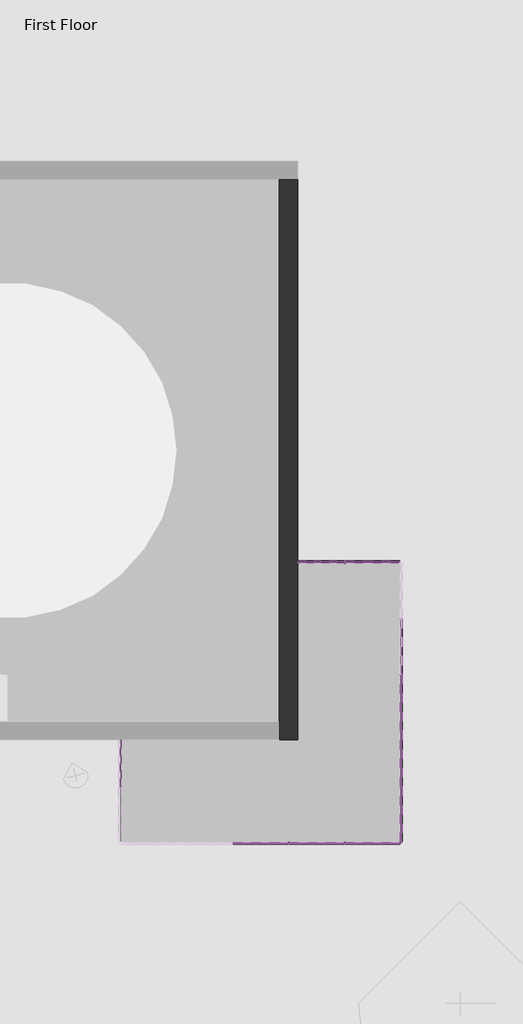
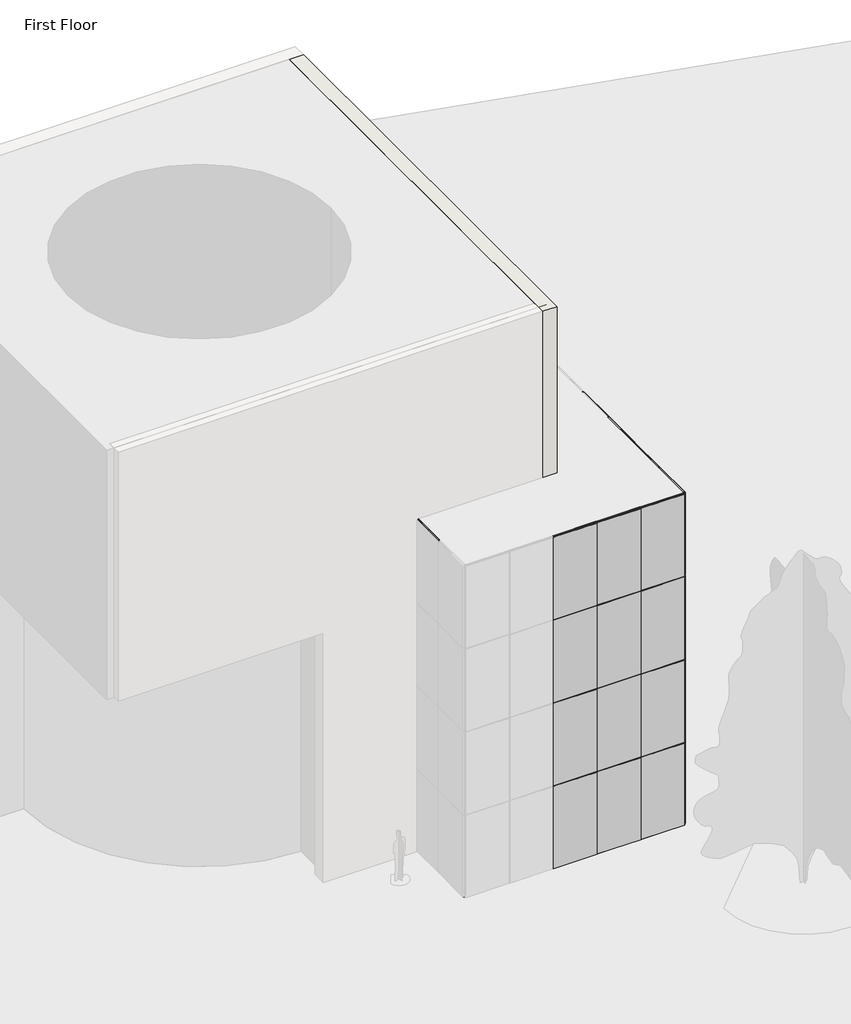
# One storey, part 2 of 4: 92 members, 36 plates, 1 wall.
"""IFC4 building model written with IfcOpenShell, lengths in millimetres."""

from ifc_helpers import new_model, si_unit, origin, place, context, project, spatial, faceted_brep, transform, mapped, element, save
from components import member_40ce1a5c, member_5e617a80, member_0d8d9af5, member_74941792, member_cbdb9076, member_7e523723, member_9fd3d903, member_6604d1e0, member_e0356dda, member_be0b070d, system_panel_glazed_9b7d687a, system_panel_glazed_3ccd4ad1, system_panel_glazed_9a901b4a, system_panel_glazed_ee91e337, system_panel_glazed_2d5e1d3d, system_panel_glazed_37964ea6

model = new_model("IFC4")

# Units and contexts
model_context = context("Model", 3, world=origin())
ifc_project = project(units=[si_unit("LENGTHUNIT", "METRE", prefix="MILLI")], contexts=[model_context])

# Site, building, storey
site = spatial("IfcSite", under=ifc_project)
building = spatial("IfcBuilding", under=site)
storey = spatial("IfcBuildingStorey", under=building, Name="First Floor", Elevation=0.0)

# Members
placement = place(None, origin())
member_shape = member_40ce1a5c(model_context)
element("IfcMember", 1, ObjectType="Rectangular Mullion : 1\" Square", at=placement, inside=storey, context=model_context, shape_type="MappedRepresentation", body=[
    mapped(member_shape, transform((5418.7693843, -3733.9860776, 3048.0), x_axis=(0.0, 0.0, 1.0), y_axis=(0.0, 1.0, 0.0), z_axis=(-1.0, 0.0, 0.0))),
])
element("IfcMember", 2, ObjectType="Rectangular Mullion : 1\" Square", at=placement, inside=storey, context=model_context, shape_type="MappedRepresentation", body=[
    mapped(member_shape, transform((5418.7693843, -3733.9860776, 6096.0), x_axis=(0.0, 0.0, 1.0), y_axis=(0.0, 1.0, 0.0), z_axis=(-1.0, 0.0, 0.0))),
])
element("IfcMember", 3, ObjectType="Rectangular Mullion : 1\" Square", at=placement, inside=storey, context=model_context, shape_type="MappedRepresentation", body=[
    mapped(member_shape, transform((5418.7693843, -3733.9860776, 9144.0), x_axis=(0.0, 0.0, 1.0), y_axis=(0.0, 1.0, 0.0), z_axis=(-1.0, 0.0, 0.0))),
])
member_2_shape = member_5e617a80(model_context)
element("IfcMember", 4, ObjectType="Rectangular Mullion : 1\" Square", at=placement, inside=storey, context=model_context, shape_type="MappedRepresentation", body=[
    mapped(member_2_shape, transform((8171.4943843, -11353.9860776, 3048.0), x_axis=(0.0, 0.0, 1.0), y_axis=(0.0, -1.0, 0.0), z_axis=(1.0, 0.0, 0.0))),
])
element("IfcMember", 5, ObjectType="Rectangular Mullion : 1\" Square", at=placement, inside=storey, context=model_context, shape_type="MappedRepresentation", body=[
    mapped(member_2_shape, transform((8171.4943843, -11353.9860776, 6096.0), x_axis=(0.0, 0.0, 1.0), y_axis=(0.0, -1.0, 0.0), z_axis=(1.0, 0.0, 0.0))),
])
element("IfcMember", 6, ObjectType="Rectangular Mullion : 1\" Square", at=placement, inside=storey, context=model_context, shape_type="MappedRepresentation", body=[
    mapped(member_2_shape, transform((8171.4943843, -11353.9860776, 9144.0), x_axis=(0.0, 0.0, 1.0), y_axis=(0.0, -1.0, 0.0), z_axis=(1.0, 0.0, 0.0))),
])
element("IfcMember", 7, ObjectType="Rectangular Mullion : 1\" Square", at=placement, inside=storey, context=model_context, shape_type="MappedRepresentation", body=[
    mapped(member_2_shape, transform((8196.8943843, -9842.6860776, 3048.0), x_axis=(0.0, 0.0, 1.0), y_axis=(1.0, 0.0, 0.0), z_axis=(0.0, 1.0, 0.0))),
])
element("IfcMember", 8, ObjectType="Rectangular Mullion : 1\" Square", at=placement, inside=storey, context=model_context, shape_type="MappedRepresentation", body=[
    mapped(member_2_shape, transform((8196.8943843, -9842.6860776, 6096.0), x_axis=(0.0, 0.0, 1.0), y_axis=(1.0, 0.0, 0.0), z_axis=(0.0, 1.0, 0.0))),
])
element("IfcMember", 9, ObjectType="Rectangular Mullion : 1\" Square", at=placement, inside=storey, context=model_context, shape_type="MappedRepresentation", body=[
    mapped(member_2_shape, transform((8196.8943843, -9842.6860776, 9144.0), x_axis=(0.0, 0.0, 1.0), y_axis=(1.0, 0.0, 0.0), z_axis=(0.0, 1.0, 0.0))),
])
element("IfcMember", 10, ObjectType="Rectangular Mullion : 1\" Square", at=placement, inside=storey, context=model_context, shape_type="MappedRepresentation", body=[
    mapped(member_2_shape, transform((6685.5943843, -3733.9860776, 3048.0), x_axis=(0.0, 0.0, 1.0), y_axis=(0.0, 1.0, 0.0), z_axis=(-1.0, 0.0, 0.0))),
])
element("IfcMember", 11, ObjectType="Rectangular Mullion : 1\" Square", at=placement, inside=storey, context=model_context, shape_type="MappedRepresentation", body=[
    mapped(member_2_shape, transform((6685.5943843, -3733.9860776, 6096.0), x_axis=(0.0, 0.0, 1.0), y_axis=(0.0, 1.0, 0.0), z_axis=(-1.0, 0.0, 0.0))),
])
element("IfcMember", 12, ObjectType="Rectangular Mullion : 1\" Square", at=placement, inside=storey, context=model_context, shape_type="MappedRepresentation", body=[
    mapped(member_2_shape, transform((6685.5943843, -3733.9860776, 9144.0), x_axis=(0.0, 0.0, 1.0), y_axis=(0.0, 1.0, 0.0), z_axis=(-1.0, 0.0, 0.0))),
])
member_3_shape = member_0d8d9af5(model_context)
element("IfcMember", 13, ObjectType="Rectangular Mullion : 1\" Square", at=placement, inside=storey, context=model_context, shape_type="MappedRepresentation", body=[
    mapped(member_3_shape, transform((6660.1943843, -3733.9860776, 0.0), x_axis=(0.0, 0.0, -1.0), y_axis=(0.0, 1.0, 0.0), z_axis=(1.0, 0.0, 0.0))),
])
member_4_shape = member_74941792(model_context)
element("IfcMember", 14, ObjectType="Rectangular Mullion : 1\" Square", at=placement, inside=storey, context=model_context, shape_type="MappedRepresentation", body=[
    mapped(member_4_shape, transform((8171.4943843, -11353.9860776, 12192.0), x_axis=(0.0, 0.0, 1.0), y_axis=(0.0, -1.0, 0.0), z_axis=(1.0, 0.0, 0.0))),
])
element("IfcMember", 15, ObjectType="Rectangular Mullion : 1\" Square", at=placement, inside=storey, context=model_context, shape_type="MappedRepresentation", body=[
    mapped(member_4_shape, transform((8196.8943843, -9842.6860776, 12192.0), x_axis=(0.0, 0.0, 1.0), y_axis=(1.0, 0.0, 0.0), z_axis=(0.0, 1.0, 0.0))),
])
element("IfcMember", 16, ObjectType="Rectangular Mullion : 1\" Square", at=placement, inside=storey, context=model_context, shape_type="MappedRepresentation", body=[
    mapped(member_4_shape, transform((6685.5943843, -3733.9860776, 12192.0), x_axis=(0.0, 0.0, 1.0), y_axis=(0.0, 1.0, 0.0), z_axis=(-1.0, 0.0, 0.0))),
])
member_5_shape = member_cbdb9076(model_context)
element("IfcMember", 17, ObjectType="Rectangular Mullion : 1\" Square", at=placement, inside=storey, context=model_context, shape_type="MappedRepresentation", body=[
    mapped(member_5_shape, transform((576.8943843, -9826.8110776, 3048.0), x_axis=(0.0, -1.0, 0.0), y_axis=(-1.0, 0.0, 0.0), z_axis=(0.0, 0.0, -1.0))),
])
element("IfcMember", 18, ObjectType="Rectangular Mullion : 1\" Square", at=placement, inside=storey, context=model_context, shape_type="MappedRepresentation", body=[
    mapped(member_5_shape, transform((576.8943843, -9826.8110776, 6096.0), x_axis=(0.0, -1.0, 0.0), y_axis=(-1.0, 0.0, 0.0), z_axis=(0.0, 0.0, -1.0))),
])
element("IfcMember", 19, ObjectType="Rectangular Mullion : 1\" Square", at=placement, inside=storey, context=model_context, shape_type="MappedRepresentation", body=[
    mapped(member_5_shape, transform((5148.8943843, -11353.9860776, 3048.0), x_axis=(1.0, 0.0, 0.0), y_axis=(0.0, -1.0, 0.0), z_axis=(0.0, 0.0, -1.0))),
])
element("IfcMember", 20, ObjectType="Rectangular Mullion : 1\" Square", at=placement, inside=storey, context=model_context, shape_type="MappedRepresentation", body=[
    mapped(member_5_shape, transform((5148.8943843, -11353.9860776, 6096.0), x_axis=(1.0, 0.0, 0.0), y_axis=(0.0, -1.0, 0.0), z_axis=(0.0, 0.0, -1.0))),
])
element("IfcMember", 21, ObjectType="Rectangular Mullion : 1\" Square", at=placement, inside=storey, context=model_context, shape_type="MappedRepresentation", body=[
    mapped(member_5_shape, transform((6672.8943843, -11353.9860776, 3048.0), x_axis=(1.0, 0.0, 0.0), y_axis=(0.0, -1.0, 0.0), z_axis=(0.0, 0.0, -1.0))),
])
element("IfcMember", 22, ObjectType="Rectangular Mullion : 1\" Square", at=placement, inside=storey, context=model_context, shape_type="MappedRepresentation", body=[
    mapped(member_5_shape, transform((6672.8943843, -11353.9860776, 6096.0), x_axis=(1.0, 0.0, 0.0), y_axis=(0.0, -1.0, 0.0), z_axis=(0.0, 0.0, -1.0))),
])
element("IfcMember", 23, ObjectType="Rectangular Mullion : 1\" Square", at=placement, inside=storey, context=model_context, shape_type="MappedRepresentation", body=[
    mapped(member_5_shape, transform((8196.8943843, -8305.9860776, 6096.0), x_axis=(0.0, 1.0, 0.0), y_axis=(1.0, 0.0, 0.0), z_axis=(0.0, 0.0, -1.0))),
])
element("IfcMember", 24, ObjectType="Rectangular Mullion : 1\" Square", at=placement, inside=storey, context=model_context, shape_type="MappedRepresentation", body=[
    mapped(member_5_shape, transform((8196.8943843, -6781.9860776, 3048.0), x_axis=(0.0, 1.0, 0.0), y_axis=(1.0, 0.0, 0.0), z_axis=(0.0, 0.0, -1.0))),
])
element("IfcMember", 25, ObjectType="Rectangular Mullion : 1\" Square", at=placement, inside=storey, context=model_context, shape_type="MappedRepresentation", body=[
    mapped(member_5_shape, transform((8196.8943843, -6781.9860776, 6096.0), x_axis=(0.0, 1.0, 0.0), y_axis=(1.0, 0.0, 0.0), z_axis=(0.0, 0.0, -1.0))),
])
element("IfcMember", 26, ObjectType="Rectangular Mullion : 1\" Square", at=placement, inside=storey, context=model_context, shape_type="MappedRepresentation", body=[
    mapped(member_5_shape, transform((8196.8943843, -5257.9860776, 3048.0), x_axis=(0.0, 1.0, 0.0), y_axis=(1.0, 0.0, 0.0), z_axis=(0.0, 0.0, -1.0))),
])
element("IfcMember", 27, ObjectType="Rectangular Mullion : 1\" Square", at=placement, inside=storey, context=model_context, shape_type="MappedRepresentation", body=[
    mapped(member_5_shape, transform((8196.8943843, -5257.9860776, 6096.0), x_axis=(0.0, 1.0, 0.0), y_axis=(1.0, 0.0, 0.0), z_axis=(0.0, 0.0, -1.0))),
])
element("IfcMember", 28, ObjectType="Rectangular Mullion : 1\" Square", at=placement, inside=storey, context=model_context, shape_type="MappedRepresentation", body=[
    mapped(member_5_shape, transform((8196.8943843, -9829.9860776, 3048.0), x_axis=(0.0, 1.0, 0.0), y_axis=(1.0, 0.0, 0.0), z_axis=(0.0, 0.0, -1.0))),
])
element("IfcMember", 29, ObjectType="Rectangular Mullion : 1\" Square", at=placement, inside=storey, context=model_context, shape_type="MappedRepresentation", body=[
    mapped(member_5_shape, transform((8196.8943843, -9829.9860776, 6096.0), x_axis=(0.0, 1.0, 0.0), y_axis=(1.0, 0.0, 0.0), z_axis=(0.0, 0.0, -1.0))),
])
element("IfcMember", 30, ObjectType="Rectangular Mullion : 1\" Square", at=placement, inside=storey, context=model_context, shape_type="MappedRepresentation", body=[
    mapped(member_5_shape, transform((8196.8943843, -8305.9860776, 3048.0), x_axis=(0.0, 1.0, 0.0), y_axis=(1.0, 0.0, 0.0), z_axis=(0.0, 0.0, -1.0))),
])
element("IfcMember", 31, ObjectType="Rectangular Mullion : 1\" Square", at=placement, inside=storey, context=model_context, shape_type="MappedRepresentation", body=[
    mapped(member_5_shape, transform((6672.8943843, -3733.9860776, 3048.0), x_axis=(-1.0, 0.0, 0.0), y_axis=(0.0, 1.0, 0.0), z_axis=(0.0, 0.0, -1.0))),
])
element("IfcMember", 32, ObjectType="Rectangular Mullion : 1\" Square", at=placement, inside=storey, context=model_context, shape_type="MappedRepresentation", body=[
    mapped(member_5_shape, transform((6672.8943843, -3733.9860776, 6096.0), x_axis=(-1.0, 0.0, 0.0), y_axis=(0.0, 1.0, 0.0), z_axis=(0.0, 0.0, -1.0))),
])
element("IfcMember", 33, ObjectType="Rectangular Mullion : 1\" Square", at=placement, inside=storey, context=model_context, shape_type="MappedRepresentation", body=[
    mapped(member_5_shape, transform((576.8943843, -9826.8110776, 9144.0), x_axis=(0.0, -1.0, 0.0), y_axis=(-1.0, 0.0, 0.0), z_axis=(0.0, 0.0, -1.0))),
])
element("IfcMember", 34, ObjectType="Rectangular Mullion : 1\" Square", at=placement, inside=storey, context=model_context, shape_type="MappedRepresentation", body=[
    mapped(member_5_shape, transform((5148.8943843, -11353.9860776, 9144.0), x_axis=(1.0, 0.0, 0.0), y_axis=(0.0, -1.0, 0.0), z_axis=(0.0, 0.0, -1.0))),
])
element("IfcMember", 35, ObjectType="Rectangular Mullion : 1\" Square", at=placement, inside=storey, context=model_context, shape_type="MappedRepresentation", body=[
    mapped(member_5_shape, transform((6672.8943843, -11353.9860776, 9144.0), x_axis=(1.0, 0.0, 0.0), y_axis=(0.0, -1.0, 0.0), z_axis=(0.0, 0.0, -1.0))),
])
element("IfcMember", 36, ObjectType="Rectangular Mullion : 1\" Square", at=placement, inside=storey, context=model_context, shape_type="MappedRepresentation", body=[
    mapped(member_5_shape, transform((8196.8943843, -8305.9860776, 9144.0), x_axis=(0.0, 1.0, 0.0), y_axis=(1.0, 0.0, 0.0), z_axis=(0.0, 0.0, -1.0))),
])
element("IfcMember", 37, ObjectType="Rectangular Mullion : 1\" Square", at=placement, inside=storey, context=model_context, shape_type="MappedRepresentation", body=[
    mapped(member_5_shape, transform((8196.8943843, -6781.9860776, 9144.0), x_axis=(0.0, 1.0, 0.0), y_axis=(1.0, 0.0, 0.0), z_axis=(0.0, 0.0, -1.0))),
])
element("IfcMember", 38, ObjectType="Rectangular Mullion : 1\" Square", at=placement, inside=storey, context=model_context, shape_type="MappedRepresentation", body=[
    mapped(member_5_shape, transform((8196.8943843, -5257.9860776, 9144.0), x_axis=(0.0, 1.0, 0.0), y_axis=(1.0, 0.0, 0.0), z_axis=(0.0, 0.0, -1.0))),
])
element("IfcMember", 39, ObjectType="Rectangular Mullion : 1\" Square", at=placement, inside=storey, context=model_context, shape_type="MappedRepresentation", body=[
    mapped(member_5_shape, transform((8196.8943843, -9829.9860776, 9144.0), x_axis=(0.0, 1.0, 0.0), y_axis=(1.0, 0.0, 0.0), z_axis=(0.0, 0.0, -1.0))),
])
element("IfcMember", 40, ObjectType="Rectangular Mullion : 1\" Square", at=placement, inside=storey, context=model_context, shape_type="MappedRepresentation", body=[
    mapped(member_5_shape, transform((6672.8943843, -3733.9860776, 9144.0), x_axis=(-1.0, 0.0, 0.0), y_axis=(0.0, 1.0, 0.0), z_axis=(0.0, 0.0, -1.0))),
])
element("IfcMember", 41, ObjectType="Rectangular Mullion : 1\" Square", at=placement, inside=storey, context=model_context, shape_type="MappedRepresentation", body=[
    mapped(member_5_shape, transform((576.8943843, -9826.8110776, 0.0), x_axis=(0.0, -1.0, 0.0), y_axis=(-1.0, 0.0, 0.0), z_axis=(0.0, 0.0, -1.0))),
])
element("IfcMember", 42, ObjectType="Rectangular Mullion : 1\" Square", at=placement, inside=storey, context=model_context, shape_type="MappedRepresentation", body=[
    mapped(member_5_shape, transform((6672.8943843, -11353.9860776, 0.0), x_axis=(1.0, 0.0, 0.0), y_axis=(0.0, -1.0, 0.0), z_axis=(0.0, 0.0, -1.0))),
])
element("IfcMember", 43, ObjectType="Rectangular Mullion : 1\" Square", at=placement, inside=storey, context=model_context, shape_type="MappedRepresentation", body=[
    mapped(member_5_shape, transform((5148.8943843, -11353.9860776, 0.0), x_axis=(1.0, 0.0, 0.0), y_axis=(0.0, -1.0, 0.0), z_axis=(0.0, 0.0, -1.0))),
])
element("IfcMember", 44, ObjectType="Rectangular Mullion : 1\" Square", at=placement, inside=storey, context=model_context, shape_type="MappedRepresentation", body=[
    mapped(member_5_shape, transform((8196.8943843, -9829.9860776, 0.0), x_axis=(0.0, 1.0, 0.0), y_axis=(1.0, 0.0, 0.0), z_axis=(0.0, 0.0, -1.0))),
])
element("IfcMember", 45, ObjectType="Rectangular Mullion : 1\" Square", at=placement, inside=storey, context=model_context, shape_type="MappedRepresentation", body=[
    mapped(member_5_shape, transform((8196.8943843, -8305.9860776, 0.0), x_axis=(0.0, 1.0, 0.0), y_axis=(1.0, 0.0, 0.0), z_axis=(0.0, 0.0, -1.0))),
])
element("IfcMember", 46, ObjectType="Rectangular Mullion : 1\" Square", at=placement, inside=storey, context=model_context, shape_type="MappedRepresentation", body=[
    mapped(member_5_shape, transform((8196.8943843, -6781.9860776, 0.0), x_axis=(0.0, 1.0, 0.0), y_axis=(1.0, 0.0, 0.0), z_axis=(0.0, 0.0, -1.0))),
])
element("IfcMember", 47, ObjectType="Rectangular Mullion : 1\" Square", at=placement, inside=storey, context=model_context, shape_type="MappedRepresentation", body=[
    mapped(member_5_shape, transform((6672.8943843, -3733.9860776, 0.0), x_axis=(-1.0, 0.0, 0.0), y_axis=(0.0, 1.0, 0.0), z_axis=(0.0, 0.0, -1.0))),
])
element("IfcMember", 48, ObjectType="Rectangular Mullion : 1\" Square", at=placement, inside=storey, context=model_context, shape_type="MappedRepresentation", body=[
    mapped(member_4_shape, transform((6685.5943843, -11353.9860776, 0.0), x_axis=(0.0, 0.0, -1.0), y_axis=(0.0, -1.0, 0.0), z_axis=(-1.0, 0.0, 0.0))),
])
element("IfcMember", 49, ObjectType="Rectangular Mullion : 1\" Square", at=placement, inside=storey, context=model_context, shape_type="MappedRepresentation", body=[
    mapped(member_4_shape, transform((8196.8943843, -11328.5860776, 0.0), x_axis=(0.0, 0.0, -1.0), y_axis=(1.0, 0.0, 0.0), z_axis=(0.0, -1.0, 0.0))),
])
element("IfcMember", 50, ObjectType="Rectangular Mullion : 1\" Square", at=placement, inside=storey, context=model_context, shape_type="MappedRepresentation", body=[
    mapped(member_3_shape, transform((5418.7693843, -3733.9860776, 12192.0), x_axis=(0.0, 0.0, 1.0), y_axis=(0.0, 1.0, 0.0), z_axis=(-1.0, 0.0, 0.0))),
])
member_6_shape = member_7e523723(model_context)
element("IfcMember", 51, ObjectType="Rectangular Mullion : 1\" Square", at=placement, inside=storey, context=model_context, shape_type="MappedRepresentation", body=[
    mapped(member_6_shape, transform((576.8943843, -8550.4610776, 12192.0), x_axis=(0.0, 1.0, 0.0), y_axis=(-1.0, 0.0, 0.0), z_axis=(0.0, 0.0, 1.0))),
])
element("IfcMember", 52, ObjectType="Rectangular Mullion : 1\" Square", at=placement, inside=storey, context=model_context, shape_type="MappedRepresentation", body=[
    mapped(member_6_shape, transform((8196.8943843, -11353.9860776, 12192.0), x_axis=(0.0, -1.0, 0.0), y_axis=(1.0, 0.0, 0.0), z_axis=(0.0, 0.0, 1.0))),
])
element("IfcMember", 53, ObjectType="Rectangular Mullion : 1\" Square", at=placement, inside=storey, context=model_context, shape_type="MappedRepresentation", body=[
    mapped(member_6_shape, transform((8196.8943843, -11353.9860776, 3048.0), x_axis=(1.0, 0.0, 0.0), y_axis=(0.0, -1.0, 0.0), z_axis=(0.0, 0.0, -1.0))),
])
element("IfcMember", 54, ObjectType="Rectangular Mullion : 1\" Square", at=placement, inside=storey, context=model_context, shape_type="MappedRepresentation", body=[
    mapped(member_6_shape, transform((8196.8943843, -11353.9860776, 6096.0), x_axis=(1.0, 0.0, 0.0), y_axis=(0.0, -1.0, 0.0), z_axis=(0.0, 0.0, -1.0))),
])
element("IfcMember", 55, ObjectType="Rectangular Mullion : 1\" Square", at=placement, inside=storey, context=model_context, shape_type="MappedRepresentation", body=[
    mapped(member_6_shape, transform((5393.3693843, -3733.9860776, 3048.0), x_axis=(-1.0, 0.0, 0.0), y_axis=(0.0, 1.0, 0.0), z_axis=(0.0, 0.0, -1.0))),
])
element("IfcMember", 56, ObjectType="Rectangular Mullion : 1\" Square", at=placement, inside=storey, context=model_context, shape_type="MappedRepresentation", body=[
    mapped(member_6_shape, transform((5393.3693843, -3733.9860776, 6096.0), x_axis=(-1.0, 0.0, 0.0), y_axis=(0.0, 1.0, 0.0), z_axis=(0.0, 0.0, -1.0))),
])
element("IfcMember", 57, ObjectType="Rectangular Mullion : 1\" Square", at=placement, inside=storey, context=model_context, shape_type="MappedRepresentation", body=[
    mapped(member_6_shape, transform((8196.8943843, -11353.9860776, 9144.0), x_axis=(1.0, 0.0, 0.0), y_axis=(0.0, -1.0, 0.0), z_axis=(0.0, 0.0, -1.0))),
])
element("IfcMember", 58, ObjectType="Rectangular Mullion : 1\" Square", at=placement, inside=storey, context=model_context, shape_type="MappedRepresentation", body=[
    mapped(member_6_shape, transform((5393.3693843, -3733.9860776, 9144.0), x_axis=(-1.0, 0.0, 0.0), y_axis=(0.0, 1.0, 0.0), z_axis=(0.0, 0.0, -1.0))),
])
element("IfcMember", 59, ObjectType="Rectangular Mullion : 1\" Square", at=placement, inside=storey, context=model_context, shape_type="MappedRepresentation", body=[
    mapped(member_6_shape, transform((576.8943843, -8550.4610776, 3048.0), x_axis=(0.0, 1.0, 0.0), y_axis=(-1.0, 0.0, 0.0), z_axis=(0.0, 0.0, 1.0))),
])
element("IfcMember", 60, ObjectType="Rectangular Mullion : 1\" Square", at=placement, inside=storey, context=model_context, shape_type="MappedRepresentation", body=[
    mapped(member_6_shape, transform((8196.8943843, -11353.9860776, 3048.0), x_axis=(0.0, -1.0, 0.0), y_axis=(1.0, 0.0, 0.0), z_axis=(0.0, 0.0, 1.0))),
])
element("IfcMember", 61, ObjectType="Rectangular Mullion : 1\" Square", at=placement, inside=storey, context=model_context, shape_type="MappedRepresentation", body=[
    mapped(member_6_shape, transform((576.8943843, -8550.4610776, 6096.0), x_axis=(0.0, 1.0, 0.0), y_axis=(-1.0, 0.0, 0.0), z_axis=(0.0, 0.0, 1.0))),
])
element("IfcMember", 62, ObjectType="Rectangular Mullion : 1\" Square", at=placement, inside=storey, context=model_context, shape_type="MappedRepresentation", body=[
    mapped(member_6_shape, transform((576.8943843, -8550.4610776, 9144.0), x_axis=(0.0, 1.0, 0.0), y_axis=(-1.0, 0.0, 0.0), z_axis=(0.0, 0.0, 1.0))),
])
element("IfcMember", 63, ObjectType="Rectangular Mullion : 1\" Square", at=placement, inside=storey, context=model_context, shape_type="MappedRepresentation", body=[
    mapped(member_6_shape, transform((8196.8943843, -11353.9860776, 6096.0), x_axis=(0.0, -1.0, 0.0), y_axis=(1.0, 0.0, 0.0), z_axis=(0.0, 0.0, 1.0))),
])
element("IfcMember", 64, ObjectType="Rectangular Mullion : 1\" Square", at=placement, inside=storey, context=model_context, shape_type="MappedRepresentation", body=[
    mapped(member_6_shape, transform((8196.8943843, -11353.9860776, 9144.0), x_axis=(0.0, -1.0, 0.0), y_axis=(1.0, 0.0, 0.0), z_axis=(0.0, 0.0, 1.0))),
])
element("IfcMember", 65, ObjectType="Rectangular Mullion : 1\" Square", at=placement, inside=storey, context=model_context, shape_type="MappedRepresentation", body=[
    mapped(member_6_shape, transform((8196.8943843, -11353.9860776, 0.0), x_axis=(1.0, 0.0, 0.0), y_axis=(0.0, -1.0, 0.0), z_axis=(0.0, 0.0, -1.0))),
])
element("IfcMember", 66, ObjectType="Rectangular Mullion : 1\" Square", at=placement, inside=storey, context=model_context, shape_type="MappedRepresentation", body=[
    mapped(member_6_shape, transform((5393.3693843, -3733.9860776, 0.0), x_axis=(-1.0, 0.0, 0.0), y_axis=(0.0, 1.0, 0.0), z_axis=(0.0, 0.0, -1.0))),
])
member_7_shape = member_9fd3d903(model_context)
element("IfcMember", 67, ObjectType="Rectangular Mullion : 1\" Square", at=placement, inside=storey, context=model_context, shape_type="MappedRepresentation", body=[
    mapped(member_7_shape, transform((5136.1943843, -11353.9860776, 3048.0), x_axis=(0.0, 0.0, 1.0), y_axis=(0.0, -1.0, 0.0), z_axis=(1.0, 0.0, 0.0))),
])
element("IfcMember", 68, ObjectType="Rectangular Mullion : 1\" Square", at=placement, inside=storey, context=model_context, shape_type="MappedRepresentation", body=[
    mapped(member_7_shape, transform((6660.1943843, -11353.9860776, 3048.0), x_axis=(0.0, 0.0, 1.0), y_axis=(0.0, -1.0, 0.0), z_axis=(1.0, 0.0, 0.0))),
])
element("IfcMember", 69, ObjectType="Rectangular Mullion : 1\" Square", at=placement, inside=storey, context=model_context, shape_type="MappedRepresentation", body=[
    mapped(member_7_shape, transform((5136.1943843, -11353.9860776, 6096.0), x_axis=(0.0, 0.0, 1.0), y_axis=(0.0, -1.0, 0.0), z_axis=(1.0, 0.0, 0.0))),
])
element("IfcMember", 70, ObjectType="Rectangular Mullion : 1\" Square", at=placement, inside=storey, context=model_context, shape_type="MappedRepresentation", body=[
    mapped(member_7_shape, transform((6660.1943843, -11353.9860776, 6096.0), x_axis=(0.0, 0.0, 1.0), y_axis=(0.0, -1.0, 0.0), z_axis=(1.0, 0.0, 0.0))),
])
element("IfcMember", 71, ObjectType="Rectangular Mullion : 1\" Square", at=placement, inside=storey, context=model_context, shape_type="MappedRepresentation", body=[
    mapped(member_7_shape, transform((5136.1943843, -11353.9860776, 9144.0), x_axis=(0.0, 0.0, 1.0), y_axis=(0.0, -1.0, 0.0), z_axis=(1.0, 0.0, 0.0))),
])
element("IfcMember", 72, ObjectType="Rectangular Mullion : 1\" Square", at=placement, inside=storey, context=model_context, shape_type="MappedRepresentation", body=[
    mapped(member_7_shape, transform((6660.1943843, -11353.9860776, 9144.0), x_axis=(0.0, 0.0, 1.0), y_axis=(0.0, -1.0, 0.0), z_axis=(1.0, 0.0, 0.0))),
])
element("IfcMember", 73, ObjectType="Rectangular Mullion : 1\" Square", at=placement, inside=storey, context=model_context, shape_type="MappedRepresentation", body=[
    mapped(member_7_shape, transform((8196.8943843, -8318.6860776, 3048.0), x_axis=(0.0, 0.0, 1.0), y_axis=(1.0, 0.0, 0.0), z_axis=(0.0, 1.0, 0.0))),
])
element("IfcMember", 74, ObjectType="Rectangular Mullion : 1\" Square", at=placement, inside=storey, context=model_context, shape_type="MappedRepresentation", body=[
    mapped(member_7_shape, transform((8196.8943843, -6794.6860776, 3048.0), x_axis=(0.0, 0.0, 1.0), y_axis=(1.0, 0.0, 0.0), z_axis=(0.0, 1.0, 0.0))),
])
element("IfcMember", 75, ObjectType="Rectangular Mullion : 1\" Square", at=placement, inside=storey, context=model_context, shape_type="MappedRepresentation", body=[
    mapped(member_7_shape, transform((8196.8943843, -8318.6860776, 6096.0), x_axis=(0.0, 0.0, 1.0), y_axis=(1.0, 0.0, 0.0), z_axis=(0.0, 1.0, 0.0))),
])
element("IfcMember", 76, ObjectType="Rectangular Mullion : 1\" Square", at=placement, inside=storey, context=model_context, shape_type="MappedRepresentation", body=[
    mapped(member_7_shape, transform((8196.8943843, -6794.6860776, 6096.0), x_axis=(0.0, 0.0, 1.0), y_axis=(1.0, 0.0, 0.0), z_axis=(0.0, 1.0, 0.0))),
])
element("IfcMember", 77, ObjectType="Rectangular Mullion : 1\" Square", at=placement, inside=storey, context=model_context, shape_type="MappedRepresentation", body=[
    mapped(member_7_shape, transform((8196.8943843, -8318.6860776, 9144.0), x_axis=(0.0, 0.0, 1.0), y_axis=(1.0, 0.0, 0.0), z_axis=(0.0, 1.0, 0.0))),
])
element("IfcMember", 78, ObjectType="Rectangular Mullion : 1\" Square", at=placement, inside=storey, context=model_context, shape_type="MappedRepresentation", body=[
    mapped(member_7_shape, transform((8196.8943843, -6794.6860776, 9144.0), x_axis=(0.0, 0.0, 1.0), y_axis=(1.0, 0.0, 0.0), z_axis=(0.0, 1.0, 0.0))),
])
member_8_shape = member_6604d1e0(model_context)
element("IfcMember", 79, ObjectType="Rectangular Mullion : 1\" Square", at=placement, inside=storey, context=model_context, shape_type="MappedRepresentation", body=[
    mapped(member_8_shape, transform((6660.1943843, -11353.9860776, 12192.0), x_axis=(0.0, 0.0, 1.0), y_axis=(0.0, -1.0, 0.0), z_axis=(1.0, 0.0, 0.0))),
])
element("IfcMember", 80, ObjectType="Rectangular Mullion : 1\" Square", at=placement, inside=storey, context=model_context, shape_type="MappedRepresentation", body=[
    mapped(member_8_shape, transform((5136.1943843, -11353.9860776, 12192.0), x_axis=(0.0, 0.0, 1.0), y_axis=(0.0, -1.0, 0.0), z_axis=(1.0, 0.0, 0.0))),
])
element("IfcMember", 81, ObjectType="Rectangular Mullion : 1\" Square", at=placement, inside=storey, context=model_context, shape_type="MappedRepresentation", body=[
    mapped(member_8_shape, transform((8196.8943843, -8318.6860776, 12192.0), x_axis=(0.0, 0.0, 1.0), y_axis=(1.0, 0.0, 0.0), z_axis=(0.0, 1.0, 0.0))),
])
element("IfcMember", 82, ObjectType="Rectangular Mullion : 1\" Square", at=placement, inside=storey, context=model_context, shape_type="MappedRepresentation", body=[
    mapped(member_8_shape, transform((8196.8943843, -6794.6860776, 12192.0), x_axis=(0.0, 0.0, 1.0), y_axis=(1.0, 0.0, 0.0), z_axis=(0.0, 1.0, 0.0))),
])
element("IfcMember", 83, ObjectType="Rectangular Mullion : 1\" Square", at=placement, inside=storey, context=model_context, shape_type="MappedRepresentation", body=[
    mapped(member_8_shape, transform((576.8943843, -9839.5110776, 0.0), x_axis=(0.0, 0.0, -1.0), y_axis=(-1.0, 0.0, 0.0), z_axis=(0.0, 1.0, 0.0))),
])
element("IfcMember", 84, ObjectType="Rectangular Mullion : 1\" Square", at=placement, inside=storey, context=model_context, shape_type="MappedRepresentation", body=[
    mapped(member_8_shape, transform((5161.5943843, -11353.9860776, 0.0), x_axis=(0.0, 0.0, -1.0), y_axis=(0.0, -1.0, 0.0), z_axis=(-1.0, 0.0, 0.0))),
])
element("IfcMember", 85, ObjectType="Rectangular Mullion : 1\" Square", at=placement, inside=storey, context=model_context, shape_type="MappedRepresentation", body=[
    mapped(member_8_shape, transform((8196.8943843, -9817.2860776, 0.0), x_axis=(0.0, 0.0, -1.0), y_axis=(1.0, 0.0, 0.0), z_axis=(0.0, -1.0, 0.0))),
])
element("IfcMember", 86, ObjectType="Rectangular Mullion : 1\" Square", at=placement, inside=storey, context=model_context, shape_type="MappedRepresentation", body=[
    mapped(member_8_shape, transform((8196.8943843, -8293.2860776, 0.0), x_axis=(0.0, 0.0, -1.0), y_axis=(1.0, 0.0, 0.0), z_axis=(0.0, -1.0, 0.0))),
])
element("IfcMember", 87, ObjectType="Rectangular Mullion : 1\" Square", at=placement, inside=storey, context=model_context, shape_type="MappedRepresentation", body=[
    mapped(member_8_shape, transform((8196.8943843, -6769.2860776, 0.0), x_axis=(0.0, 0.0, -1.0), y_axis=(1.0, 0.0, 0.0), z_axis=(0.0, -1.0, 0.0))),
])
member_9_shape = member_e0356dda(model_context)
element("IfcMember", 88, ObjectType="Rectangular Mullion : 1\" Square", at=placement, inside=storey, context=model_context, shape_type="MappedRepresentation", body=[
    mapped(member_9_shape, transform((576.8943843, -9814.1110776, 3048.0), x_axis=(0.0, 0.0, 1.0), y_axis=(-1.0, 0.0, 0.0), z_axis=(0.0, -1.0, 0.0))),
])
element("IfcMember", 89, ObjectType="Rectangular Mullion : 1\" Square", at=placement, inside=storey, context=model_context, shape_type="MappedRepresentation", body=[
    mapped(member_9_shape, transform((576.8943843, -9814.1110776, 6096.0), x_axis=(0.0, 0.0, 1.0), y_axis=(-1.0, 0.0, 0.0), z_axis=(0.0, -1.0, 0.0))),
])
element("IfcMember", 90, ObjectType="Rectangular Mullion : 1\" Square", at=placement, inside=storey, context=model_context, shape_type="MappedRepresentation", body=[
    mapped(member_9_shape, transform((576.8943843, -9814.1110776, 9144.0), x_axis=(0.0, 0.0, 1.0), y_axis=(-1.0, 0.0, 0.0), z_axis=(0.0, -1.0, 0.0))),
])
member_10_shape = member_be0b070d(model_context)
element("IfcMember", 91, ObjectType="Rectangular Mullion : 1\" Square", at=placement, inside=storey, context=model_context, shape_type="MappedRepresentation", body=[
    mapped(member_10_shape, transform((576.8943843, -9814.1110776, 12192.0), x_axis=(0.0, 0.0, 1.0), y_axis=(-1.0, 0.0, 0.0), z_axis=(0.0, -1.0, 0.0))),
])
element("IfcMember", 92, ObjectType="Rectangular Mullion : 1\" Square", at=placement, inside=storey, context=model_context, shape_type="MappedRepresentation", body=[
    mapped(member_10_shape, transform((576.8943843, -8575.8610776, 0.0), x_axis=(0.0, 0.0, -1.0), y_axis=(-1.0, 0.0, 0.0), z_axis=(0.0, 1.0, 0.0))),
])

# Plates
system_panel_glazed_shape = system_panel_glazed_9b7d687a(model_context)
element("IfcPlate", 93, ObjectType="System Panel : Glazed", at=placement, inside=storey, context=model_context, shape_type="MappedRepresentation", body=[
    mapped(system_panel_glazed_shape, transform((7428.5443843, -11353.9860776, 25.4), x_axis=(1.0, 0.0, 0.0), y_axis=(0.0, 1.0, 0.0), z_axis=(0.0, 0.0, 1.0))),
])
element("IfcPlate", 94, ObjectType="System Panel : Glazed", at=placement, inside=storey, context=model_context, shape_type="MappedRepresentation", body=[
    mapped(system_panel_glazed_shape, transform((7428.5443843, -11353.9860776, 9156.7), x_axis=(1.0, 0.0, 0.0), y_axis=(0.0, 1.0, 0.0), z_axis=(0.0, 0.0, 1.0))),
])
element("IfcPlate", 95, ObjectType="System Panel : Glazed", at=placement, inside=storey, context=model_context, shape_type="MappedRepresentation", body=[
    mapped(system_panel_glazed_shape, transform((8196.8943843, -10585.6360776, 25.4), x_axis=(0.0, 1.0, 0.0), y_axis=(-1.0, 0.0, 0.0), z_axis=(0.0, 0.0, 1.0))),
])
element("IfcPlate", 96, ObjectType="System Panel : Glazed", at=placement, inside=storey, context=model_context, shape_type="MappedRepresentation", body=[
    mapped(system_panel_glazed_shape, transform((8196.8943843, -10585.6360776, 9156.7), x_axis=(0.0, 1.0, 0.0), y_axis=(-1.0, 0.0, 0.0), z_axis=(0.0, 0.0, 1.0))),
])
element("IfcPlate", 97, ObjectType="System Panel : Glazed", at=placement, inside=storey, context=model_context, shape_type="MappedRepresentation", body=[
    mapped(system_panel_glazed_shape, transform((7428.5443843, -3733.9860776, 25.4), x_axis=(-1.0, 0.0, 0.0), y_axis=(0.0, -1.0, 0.0), z_axis=(0.0, 0.0, 1.0))),
])
element("IfcPlate", 98, ObjectType="System Panel : Glazed", at=placement, inside=storey, context=model_context, shape_type="MappedRepresentation", body=[
    mapped(system_panel_glazed_shape, transform((7428.5443843, -3733.9860776, 9156.7), x_axis=(-1.0, 0.0, 0.0), y_axis=(0.0, -1.0, 0.0), z_axis=(0.0, 0.0, 1.0))),
])
system_panel_glazed_2_shape = system_panel_glazed_3ccd4ad1(model_context)
element("IfcPlate", 99, ObjectType="System Panel : Glazed", at=placement, inside=storey, context=model_context, shape_type="MappedRepresentation", body=[
    mapped(system_panel_glazed_2_shape, transform((6039.4818843, -3733.9860776, 25.4), x_axis=(-1.0, 0.0, 0.0), y_axis=(0.0, -1.0, 0.0), z_axis=(0.0, 0.0, 1.0))),
])
element("IfcPlate", 100, ObjectType="System Panel : Glazed", at=placement, inside=storey, context=model_context, shape_type="MappedRepresentation", body=[
    mapped(system_panel_glazed_2_shape, transform((6039.4818843, -3733.9860776, 9156.7), x_axis=(-1.0, 0.0, 0.0), y_axis=(0.0, -1.0, 0.0), z_axis=(0.0, 0.0, 1.0))),
])
system_panel_glazed_3_shape = system_panel_glazed_9a901b4a(model_context)
element("IfcPlate", 101, ObjectType="System Panel : Glazed", at=placement, inside=storey, context=model_context, shape_type="MappedRepresentation", body=[
    mapped(system_panel_glazed_3_shape, transform((7428.5443843, -11353.9860776, 3060.7), x_axis=(1.0, 0.0, 0.0), y_axis=(0.0, 1.0, 0.0), z_axis=(0.0, 0.0, 1.0))),
])
element("IfcPlate", 102, ObjectType="System Panel : Glazed", at=placement, inside=storey, context=model_context, shape_type="MappedRepresentation", body=[
    mapped(system_panel_glazed_3_shape, transform((7428.5443843, -11353.9860776, 6108.7), x_axis=(1.0, 0.0, 0.0), y_axis=(0.0, 1.0, 0.0), z_axis=(0.0, 0.0, 1.0))),
])
element("IfcPlate", 103, ObjectType="System Panel : Glazed", at=placement, inside=storey, context=model_context, shape_type="MappedRepresentation", body=[
    mapped(system_panel_glazed_3_shape, transform((8196.8943843, -10585.6360776, 3060.7), x_axis=(0.0, 1.0, 0.0), y_axis=(-1.0, 0.0, 0.0), z_axis=(0.0, 0.0, 1.0))),
])
element("IfcPlate", 104, ObjectType="System Panel : Glazed", at=placement, inside=storey, context=model_context, shape_type="MappedRepresentation", body=[
    mapped(system_panel_glazed_3_shape, transform((8196.8943843, -10585.6360776, 6108.7), x_axis=(0.0, 1.0, 0.0), y_axis=(-1.0, 0.0, 0.0), z_axis=(0.0, 0.0, 1.0))),
])
element("IfcPlate", 105, ObjectType="System Panel : Glazed", at=placement, inside=storey, context=model_context, shape_type="MappedRepresentation", body=[
    mapped(system_panel_glazed_3_shape, transform((7428.5443843, -3733.9860776, 3060.7), x_axis=(-1.0, 0.0, 0.0), y_axis=(0.0, -1.0, 0.0), z_axis=(0.0, 0.0, 1.0))),
])
element("IfcPlate", 106, ObjectType="System Panel : Glazed", at=placement, inside=storey, context=model_context, shape_type="MappedRepresentation", body=[
    mapped(system_panel_glazed_3_shape, transform((7428.5443843, -3733.9860776, 6108.7), x_axis=(-1.0, 0.0, 0.0), y_axis=(0.0, -1.0, 0.0), z_axis=(0.0, 0.0, 1.0))),
])
system_panel_glazed_4_shape = system_panel_glazed_ee91e337(model_context)
element("IfcPlate", 107, ObjectType="System Panel : Glazed", at=placement, inside=storey, context=model_context, shape_type="MappedRepresentation", body=[
    mapped(system_panel_glazed_4_shape, transform((6039.4818843, -3733.9860776, 3060.7), x_axis=(-1.0, 0.0, 0.0), y_axis=(0.0, -1.0, 0.0), z_axis=(0.0, 0.0, 1.0))),
])
element("IfcPlate", 108, ObjectType="System Panel : Glazed", at=placement, inside=storey, context=model_context, shape_type="MappedRepresentation", body=[
    mapped(system_panel_glazed_4_shape, transform((6039.4818843, -3733.9860776, 6108.7), x_axis=(-1.0, 0.0, 0.0), y_axis=(0.0, -1.0, 0.0), z_axis=(0.0, 0.0, 1.0))),
])
system_panel_glazed_5_shape = system_panel_glazed_2d5e1d3d(model_context)
element("IfcPlate", 109, ObjectType="System Panel : Glazed", at=placement, inside=storey, context=model_context, shape_type="MappedRepresentation", body=[
    mapped(system_panel_glazed_5_shape, transform((4386.8943843, -11353.9860776, 25.4), x_axis=(1.0, 0.0, 0.0), y_axis=(0.0, 1.0, 0.0), z_axis=(0.0, 0.0, 1.0))),
])
element("IfcPlate", 110, ObjectType="System Panel : Glazed", at=placement, inside=storey, context=model_context, shape_type="MappedRepresentation", body=[
    mapped(system_panel_glazed_5_shape, transform((5910.8943843, -11353.9860776, 25.4), x_axis=(1.0, 0.0, 0.0), y_axis=(0.0, 1.0, 0.0), z_axis=(0.0, 0.0, 1.0))),
])
element("IfcPlate", 111, ObjectType="System Panel : Glazed", at=placement, inside=storey, context=model_context, shape_type="MappedRepresentation", body=[
    mapped(system_panel_glazed_5_shape, transform((4386.8943843, -11353.9860776, 9156.7), x_axis=(1.0, 0.0, 0.0), y_axis=(0.0, 1.0, 0.0), z_axis=(0.0, 0.0, 1.0))),
])
element("IfcPlate", 112, ObjectType="System Panel : Glazed", at=placement, inside=storey, context=model_context, shape_type="MappedRepresentation", body=[
    mapped(system_panel_glazed_5_shape, transform((5910.8943843, -11353.9860776, 9156.7), x_axis=(1.0, 0.0, 0.0), y_axis=(0.0, 1.0, 0.0), z_axis=(0.0, 0.0, 1.0))),
])
element("IfcPlate", 113, ObjectType="System Panel : Glazed", at=placement, inside=storey, context=model_context, shape_type="MappedRepresentation", body=[
    mapped(system_panel_glazed_5_shape, transform((8196.8943843, -9067.9860776, 25.4), x_axis=(0.0, 1.0, 0.0), y_axis=(-1.0, 0.0, 0.0), z_axis=(0.0, 0.0, 1.0))),
])
element("IfcPlate", 114, ObjectType="System Panel : Glazed", at=placement, inside=storey, context=model_context, shape_type="MappedRepresentation", body=[
    mapped(system_panel_glazed_5_shape, transform((8196.8943843, -7543.9860776, 25.4), x_axis=(0.0, 1.0, 0.0), y_axis=(-1.0, 0.0, 0.0), z_axis=(0.0, 0.0, 1.0))),
])
element("IfcPlate", 115, ObjectType="System Panel : Glazed", at=placement, inside=storey, context=model_context, shape_type="MappedRepresentation", body=[
    mapped(system_panel_glazed_5_shape, transform((8196.8943843, -6019.9860776, 25.4), x_axis=(0.0, 1.0, 0.0), y_axis=(-1.0, 0.0, 0.0), z_axis=(0.0, 0.0, 1.0))),
])
element("IfcPlate", 116, ObjectType="System Panel : Glazed", at=placement, inside=storey, context=model_context, shape_type="MappedRepresentation", body=[
    mapped(system_panel_glazed_5_shape, transform((8196.8943843, -9067.9860776, 9156.7), x_axis=(0.0, 1.0, 0.0), y_axis=(-1.0, 0.0, 0.0), z_axis=(0.0, 0.0, 1.0))),
])
element("IfcPlate", 117, ObjectType="System Panel : Glazed", at=placement, inside=storey, context=model_context, shape_type="MappedRepresentation", body=[
    mapped(system_panel_glazed_5_shape, transform((8196.8943843, -7543.9860776, 9156.7), x_axis=(0.0, 1.0, 0.0), y_axis=(-1.0, 0.0, 0.0), z_axis=(0.0, 0.0, 1.0))),
])
element("IfcPlate", 118, ObjectType="System Panel : Glazed", at=placement, inside=storey, context=model_context, shape_type="MappedRepresentation", body=[
    mapped(system_panel_glazed_5_shape, transform((8196.8943843, -6019.9860776, 9156.7), x_axis=(0.0, 1.0, 0.0), y_axis=(-1.0, 0.0, 0.0), z_axis=(0.0, 0.0, 1.0))),
])
system_panel_glazed_6_shape = system_panel_glazed_37964ea6(model_context)
element("IfcPlate", 119, ObjectType="System Panel : Glazed", at=placement, inside=storey, context=model_context, shape_type="MappedRepresentation", body=[
    mapped(system_panel_glazed_6_shape, transform((4386.8943843, -11353.9860776, 3060.7), x_axis=(1.0, 0.0, 0.0), y_axis=(0.0, 1.0, 0.0), z_axis=(0.0, 0.0, 1.0))),
])
element("IfcPlate", 120, ObjectType="System Panel : Glazed", at=placement, inside=storey, context=model_context, shape_type="MappedRepresentation", body=[
    mapped(system_panel_glazed_6_shape, transform((5910.8943843, -11353.9860776, 3060.7), x_axis=(1.0, 0.0, 0.0), y_axis=(0.0, 1.0, 0.0), z_axis=(0.0, 0.0, 1.0))),
])
element("IfcPlate", 121, ObjectType="System Panel : Glazed", at=placement, inside=storey, context=model_context, shape_type="MappedRepresentation", body=[
    mapped(system_panel_glazed_6_shape, transform((4386.8943843, -11353.9860776, 6108.7), x_axis=(1.0, 0.0, 0.0), y_axis=(0.0, 1.0, 0.0), z_axis=(0.0, 0.0, 1.0))),
])
element("IfcPlate", 122, ObjectType="System Panel : Glazed", at=placement, inside=storey, context=model_context, shape_type="MappedRepresentation", body=[
    mapped(system_panel_glazed_6_shape, transform((5910.8943843, -11353.9860776, 6108.7), x_axis=(1.0, 0.0, 0.0), y_axis=(0.0, 1.0, 0.0), z_axis=(0.0, 0.0, 1.0))),
])
element("IfcPlate", 123, ObjectType="System Panel : Glazed", at=placement, inside=storey, context=model_context, shape_type="MappedRepresentation", body=[
    mapped(system_panel_glazed_6_shape, transform((8196.8943843, -9067.9860776, 3060.7), x_axis=(0.0, 1.0, 0.0), y_axis=(-1.0, 0.0, 0.0), z_axis=(0.0, 0.0, 1.0))),
])
element("IfcPlate", 124, ObjectType="System Panel : Glazed", at=placement, inside=storey, context=model_context, shape_type="MappedRepresentation", body=[
    mapped(system_panel_glazed_6_shape, transform((8196.8943843, -7543.9860776, 3060.7), x_axis=(0.0, 1.0, 0.0), y_axis=(-1.0, 0.0, 0.0), z_axis=(0.0, 0.0, 1.0))),
])
element("IfcPlate", 125, ObjectType="System Panel : Glazed", at=placement, inside=storey, context=model_context, shape_type="MappedRepresentation", body=[
    mapped(system_panel_glazed_6_shape, transform((8196.8943843, -6019.9860776, 3060.7), x_axis=(0.0, 1.0, 0.0), y_axis=(-1.0, 0.0, 0.0), z_axis=(0.0, 0.0, 1.0))),
])
element("IfcPlate", 126, ObjectType="System Panel : Glazed", at=placement, inside=storey, context=model_context, shape_type="MappedRepresentation", body=[
    mapped(system_panel_glazed_6_shape, transform((8196.8943843, -9067.9860776, 6108.7), x_axis=(0.0, 1.0, 0.0), y_axis=(-1.0, 0.0, 0.0), z_axis=(0.0, 0.0, 1.0))),
])
element("IfcPlate", 127, ObjectType="System Panel : Glazed", at=placement, inside=storey, context=model_context, shape_type="MappedRepresentation", body=[
    mapped(system_panel_glazed_6_shape, transform((8196.8943843, -7543.9860776, 6108.7), x_axis=(0.0, 1.0, 0.0), y_axis=(-1.0, 0.0, 0.0), z_axis=(0.0, 0.0, 1.0))),
])
element("IfcPlate", 128, ObjectType="System Panel : Glazed", at=placement, inside=storey, context=model_context, shape_type="MappedRepresentation", body=[
    mapped(system_panel_glazed_6_shape, transform((8196.8943843, -6019.9860776, 6108.7), x_axis=(0.0, 1.0, 0.0), y_axis=(-1.0, 0.0, 0.0), z_axis=(0.0, 0.0, 1.0))),
])

# Wall
element("IfcWall", 129, ObjectType="Exterior - Brick on CMU", at=placement, inside=storey, context=model_context, shape_type="Brep", body=[
    faceted_brep([(5393.3693843, -8550.4610776, 0.0), (5393.3693843, 6683.1889224, 0.0), (5393.3693843, 6683.1889224, 18288.0), (5393.3693843, -8550.4610776, 18288.0), (4898.0693843, -8550.4610776, 0.0), (4898.0693843, -8550.4610776, 18288.0), (4898.0693843, -8055.1610776, 18288.0), (4898.0693843, 6683.1889224, 18288.0), (4898.0693843, 6683.1889224, 0.0), (4898.0693843, -8055.1610776, 0.0)], [[[0, 1, 2, 3]], [[4, 5, 6, 7, 8, 9]], [[1, 0, 4, 9, 8]], [[3, 2, 7, 6, 5]], [[0, 3, 5, 4]], [[2, 1, 8, 7]]]),
])

save(model, "model.ifc")
